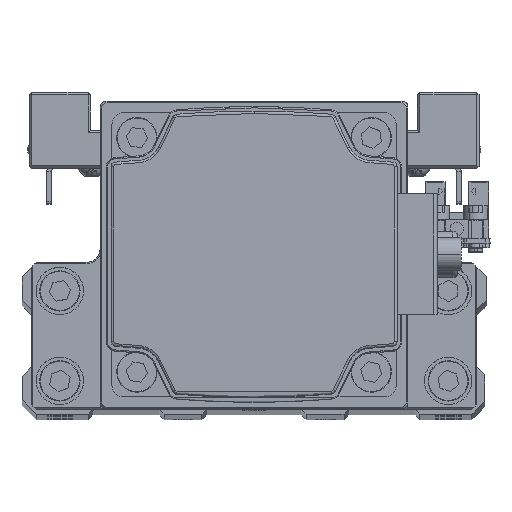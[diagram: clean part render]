
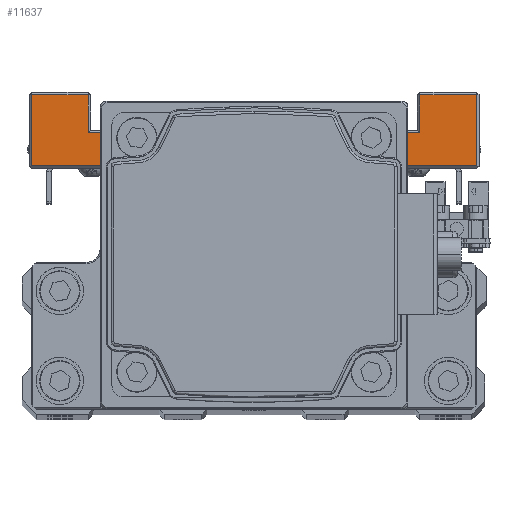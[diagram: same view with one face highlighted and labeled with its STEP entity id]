
A CAD part, top view. The second image highlights one B-rep face of the part: STEP entity #11637.
In plain terms, the highlighted planar face has unit normal (0, 0, 1) as drawn and (1, 0, 0) by its records, which use the part's own axes.
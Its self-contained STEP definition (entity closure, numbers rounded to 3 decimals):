
#426 = CARTESIAN_POINT ( 'NONE',  ( 47., 15., 35. ) ) ;
#536 = DIRECTION ( 'NONE',  ( 0., 0., 1. ) ) ;
#979 = VECTOR ( 'NONE', #30299, 1000. ) ;
#2186 = VECTOR ( 'NONE', #35612, 1000. ) ;
#2657 = CARTESIAN_POINT ( 'NONE',  ( 47., -7.5, -20. ) ) ;
#3441 = ORIENTED_EDGE ( 'NONE', *, *, #19433, .T. ) ;
#3865 = LINE ( 'NONE', #16575, #29738 ) ;
#4916 = LINE ( 'NONE', #17615, #979 ) ;
#5038 = CARTESIAN_POINT ( 'NONE',  ( 47., 8., 20. ) ) ;
#5187 = DIRECTION ( 'NONE',  ( 0., 0., 1. ) ) ;
#5276 = EDGE_CURVE ( 'NONE', #36559, #36410, #23465, .T. ) ;
#5763 = VERTEX_POINT ( 'NONE', #20514 ) ;
#5807 = VERTEX_POINT ( 'NONE', #20717 ) ;
#5967 = ORIENTED_EDGE ( 'NONE', *, *, #37641, .T. ) ;
#6102 = DIRECTION ( 'NONE',  ( 0., -1., 0. ) ) ;
#6582 = VECTOR ( 'NONE', #38388, 1000. ) ;
#6909 = VECTOR ( 'NONE', #17736, 1000. ) ;
#7204 = CARTESIAN_POINT ( 'NONE',  ( 47., 15., -35. ) ) ;
#7256 = DIRECTION ( 'NONE',  ( 0., 1., 0. ) ) ;
#7335 = CARTESIAN_POINT ( 'NONE',  ( 47., 23., 47. ) ) ;
#7472 = CARTESIAN_POINT ( 'NONE',  ( 47., 23., -35. ) ) ;
#7659 = DIRECTION ( 'NONE',  ( 0., -1., 0. ) ) ;
#8193 = LINE ( 'NONE', #20896, #29578 ) ;
#8299 = PLANE ( 'NONE',  #21256 ) ;
#8995 = VERTEX_POINT ( 'NONE', #19930 ) ;
#9121 = EDGE_CURVE ( 'NONE', #19462, #19782, #4916, .T. ) ;
#9350 = EDGE_CURVE ( 'NONE', #8995, #11027, #13003, .T. ) ;
#10056 = ORIENTED_EDGE ( 'NONE', *, *, #19410, .T. ) ;
#10235 = LINE ( 'NONE', #22914, #2186 ) ;
#10831 = CARTESIAN_POINT ( 'NONE',  ( 47., -7.5, -20. ) ) ;
#11027 = VERTEX_POINT ( 'NONE', #7335 ) ;
#11637 = ADVANCED_FACE ( 'NONE', ( #36805 ), #8299, .F. ) ;
#12824 = LINE ( 'NONE', #25498, #13720 ) ;
#13003 = LINE ( 'NONE', #25678, #6582 ) ;
#13720 = VECTOR ( 'NONE', #38206, 1000. ) ;
#14864 = ORIENTED_EDGE ( 'NONE', *, *, #24154, .T. ) ;
#15347 = DIRECTION ( 'NONE',  ( 0., 0., -1. ) ) ;
#15882 = CARTESIAN_POINT ( 'NONE',  ( 47., 8., 20. ) ) ;
#16361 = LINE ( 'NONE', #29037, #19124 ) ;
#16575 = CARTESIAN_POINT ( 'NONE',  ( 47., 7.5, 47. ) ) ;
#17128 = ORIENTED_EDGE ( 'NONE', *, *, #20281, .T. ) ;
#17322 = VERTEX_POINT ( 'NONE', #32662 ) ;
#17615 = CARTESIAN_POINT ( 'NONE',  ( 47., 15., -20. ) ) ;
#17736 = DIRECTION ( 'NONE',  ( 0., 0., -1. ) ) ;
#17786 = ORIENTED_EDGE ( 'NONE', *, *, #9121, .T. ) ;
#17833 = ORIENTED_EDGE ( 'NONE', *, *, #5276, .T. ) ;
#18226 = EDGE_LOOP ( 'NONE', ( #21893, #33746, #17128, #10056, #14864, #17786, #26715, #23390, #3441, #5967, #17833, #36159 ) ) ;
#18933 = VECTOR ( 'NONE', #6102, 1000. ) ;
#19124 = VECTOR ( 'NONE', #536, 1000. ) ;
#19410 = EDGE_CURVE ( 'NONE', #5763, #21758, #16361, .T. ) ;
#19433 = EDGE_CURVE ( 'NONE', #11027, #29705, #3865, .T. ) ;
#19462 = VERTEX_POINT ( 'NONE', #7204 ) ;
#19782 = VERTEX_POINT ( 'NONE', #426 ) ;
#19899 = VERTEX_POINT ( 'NONE', #10831 ) ;
#19930 = CARTESIAN_POINT ( 'NONE',  ( 47., 23., 35. ) ) ;
#20281 = EDGE_CURVE ( 'NONE', #17322, #5763, #23055, .T. ) ;
#20514 = CARTESIAN_POINT ( 'NONE',  ( 47., 23., -47. ) ) ;
#20717 = CARTESIAN_POINT ( 'NONE',  ( 47., 8., -20. ) ) ;
#20896 = CARTESIAN_POINT ( 'NONE',  ( 47., 7.5, 35. ) ) ;
#21008 = CARTESIAN_POINT ( 'NONE',  ( 47., 7.5, -20. ) ) ;
#21256 = AXIS2_PLACEMENT_3D ( 'NONE', #21008, #33684, #5187 ) ;
#21758 = VERTEX_POINT ( 'NONE', #7472 ) ;
#21893 = ORIENTED_EDGE ( 'NONE', *, *, #40821, .F. ) ;
#21918 = LINE ( 'NONE', #34601, #18933 ) ;
#22914 = CARTESIAN_POINT ( 'NONE',  ( 47., 8., -47. ) ) ;
#23055 = LINE ( 'NONE', #35760, #39107 ) ;
#23390 = ORIENTED_EDGE ( 'NONE', *, *, #9350, .T. ) ;
#23465 = LINE ( 'NONE', #36166, #34035 ) ;
#24154 = EDGE_CURVE ( 'NONE', #21758, #19462, #21918, .T. ) ;
#24392 = CARTESIAN_POINT ( 'NONE',  ( 47., -7.5, 20. ) ) ;
#24601 = EDGE_CURVE ( 'NONE', #19782, #8995, #8193, .T. ) ;
#25498 = CARTESIAN_POINT ( 'NONE',  ( 47., 7.5, -20. ) ) ;
#25678 = CARTESIAN_POINT ( 'NONE',  ( 47., 23., -20. ) ) ;
#26715 = ORIENTED_EDGE ( 'NONE', *, *, #24601, .T. ) ;
#26824 = CARTESIAN_POINT ( 'NONE',  ( 47., 8., 47. ) ) ;
#29037 = CARTESIAN_POINT ( 'NONE',  ( 47., 23., -20. ) ) ;
#29242 = DIRECTION ( 'NONE',  ( 0., -1., 0. ) ) ;
#29578 = VECTOR ( 'NONE', #33571, 1000. ) ;
#29705 = VERTEX_POINT ( 'NONE', #26824 ) ;
#29738 = VECTOR ( 'NONE', #29242, 1000. ) ;
#30299 = DIRECTION ( 'NONE',  ( 0., 0., 1. ) ) ;
#31160 = LINE ( 'NONE', #2657, #35044 ) ;
#31384 = EDGE_CURVE ( 'NONE', #36410, #19899, #31160, .T. ) ;
#32662 = CARTESIAN_POINT ( 'NONE',  ( 47., 8., -47. ) ) ;
#33538 = LINE ( 'NONE', #5038, #6909 ) ;
#33571 = DIRECTION ( 'NONE',  ( 0., 1., 0. ) ) ;
#33684 = DIRECTION ( 'NONE',  ( -1., 0., 0. ) ) ;
#33746 = ORIENTED_EDGE ( 'NONE', *, *, #36668, .T. ) ;
#34035 = VECTOR ( 'NONE', #7659, 1000. ) ;
#34601 = CARTESIAN_POINT ( 'NONE',  ( 47., 7.5, -35. ) ) ;
#35044 = VECTOR ( 'NONE', #15347, 1000. ) ;
#35612 = DIRECTION ( 'NONE',  ( 0., 0., -1. ) ) ;
#35760 = CARTESIAN_POINT ( 'NONE',  ( 47., 7.5, -47. ) ) ;
#36159 = ORIENTED_EDGE ( 'NONE', *, *, #31384, .T. ) ;
#36166 = CARTESIAN_POINT ( 'NONE',  ( 47., 7.5, 20. ) ) ;
#36410 = VERTEX_POINT ( 'NONE', #24392 ) ;
#36559 = VERTEX_POINT ( 'NONE', #15882 ) ;
#36668 = EDGE_CURVE ( 'NONE', #5807, #17322, #10235, .T. ) ;
#36805 = FACE_OUTER_BOUND ( 'NONE', #18226, .T. ) ;
#37641 = EDGE_CURVE ( 'NONE', #29705, #36559, #33538, .T. ) ;
#38206 = DIRECTION ( 'NONE',  ( 0., -1., 0. ) ) ;
#38388 = DIRECTION ( 'NONE',  ( 0., 0., 1. ) ) ;
#39107 = VECTOR ( 'NONE', #7256, 1000. ) ;
#40821 = EDGE_CURVE ( 'NONE', #5807, #19899, #12824, .T. ) ;
